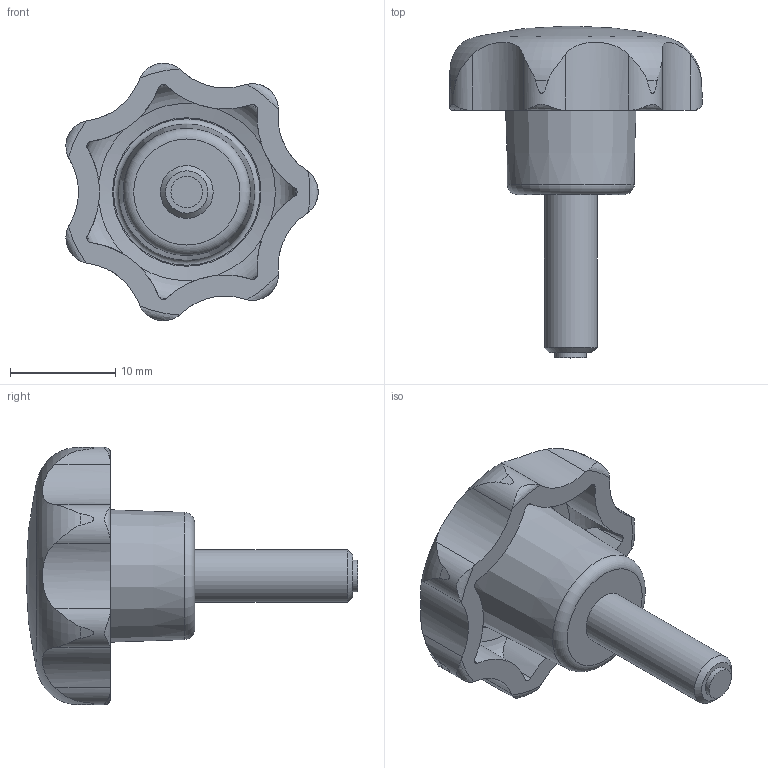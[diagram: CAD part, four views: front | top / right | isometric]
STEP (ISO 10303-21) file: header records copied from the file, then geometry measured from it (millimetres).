
FILE_DESCRIPTION( ( 'STEP AP203' ), '1' );
FILE_NAME( 'C:/Temp/Ganter_Step_05_03_2020/data/2_2/gn6336_10/Star knob GN 6336.10-25-M5-15-MS.stp', '2020-03-05T12:04:05', ( 'License CC BY-ND 4.0' ), ( 'CADENAS' ), ' ', 'PARTsolutions', ' ' );
FILE_SCHEMA( ( 'CONFIG_CONTROL_DESIGN' ) );
Length unit declared in the file: millimetre
Products named in the file (1): _Star knob GN 6336.10-25-M5-15-MS
Bounding box: 23.93 x 31.5 x 24.42 mm (x, y, z)
Volume: 3400.6 mm3; surface area: 2291.8 mm2
Topology: 1 solids, 1 shells, 70 faces, 194 edges, 128 vertices
Faces by surface type: cylinder 30, torus 18, cone 17, plane 4, sphere 1
Full cylindrical faces by diameter (mm): 3 x1, 5 x1
Entity records: 3018 total; most frequent: CARTESIAN_POINT 1333, ORIENTED_EDGE 358, DIRECTION 318, EDGE_CURVE 179, AXIS2_PLACEMENT_3D 145, VERTEX_POINT 124, EDGE_LOOP 82, B_SPLINE_CURVE_WITH_KNOTS 77
